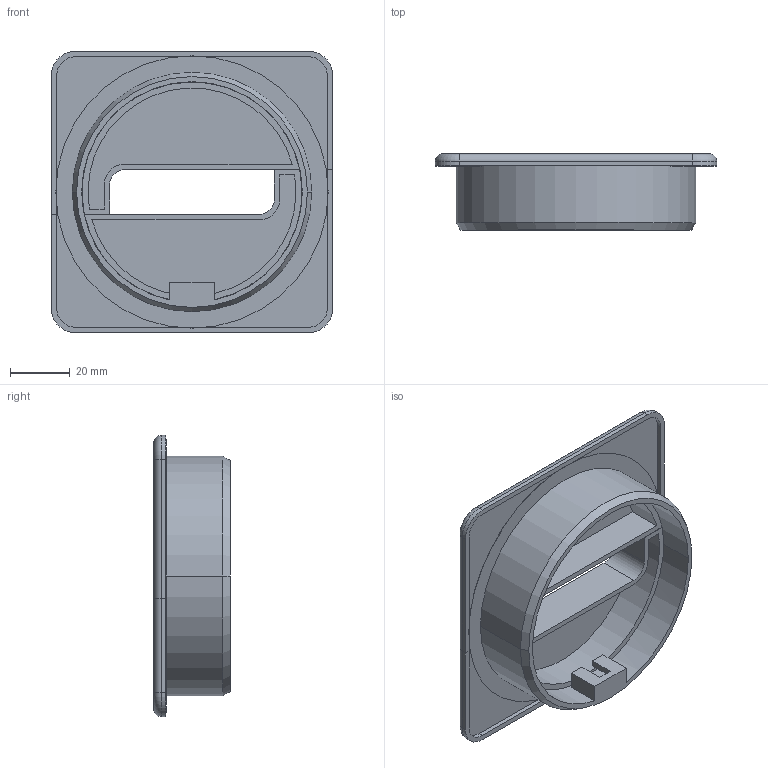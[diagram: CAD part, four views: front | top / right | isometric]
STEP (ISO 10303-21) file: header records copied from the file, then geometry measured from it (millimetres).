
FILE_DESCRIPTION((''),'2;1');
FILE_NAME('2377ASA_ASM','2016-11-30T',('tecnico1'),(''),'PRO/ENGINEER BY PARAMETRIC TECHNOLOGY CORPORATION, 2003410','PRO/ENGINEER BY PARAMETRIC TECHNOLOGY CORPORATION, 2003410','');
FILE_SCHEMA(('CONFIG_CONTROL_DESIGN'));
Length unit declared in the file: millimetre
Products named in the file (3): 2377A; 2377B; 2377ASA_ASM
Assembly tree (3 placements, depth 2):
  2377ASA_ASM
    2377A
    2377B  x2
Bounding box: 94 x 25.5 x 94 mm (x, y, z)
Volume: 47808.4 mm3; surface area: 42457.5 mm2
Topology: 3 solids, 3 shells, 86 faces, 218 edges, 142 vertices
Faces by surface type: plane 50, cylinder 28, torus 6, cone 2
Entity records: 1788 total; most frequent: DIRECTION 311, CARTESIAN_POINT 295, ORIENTED_EDGE 282, EDGE_CURVE 141, AXIS2_PLACEMENT_3D 108, VECTOR 95, LINE 95, VERTEX_POINT 92
